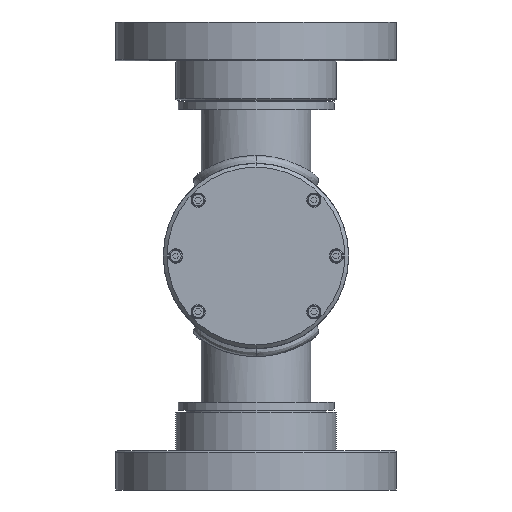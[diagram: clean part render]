
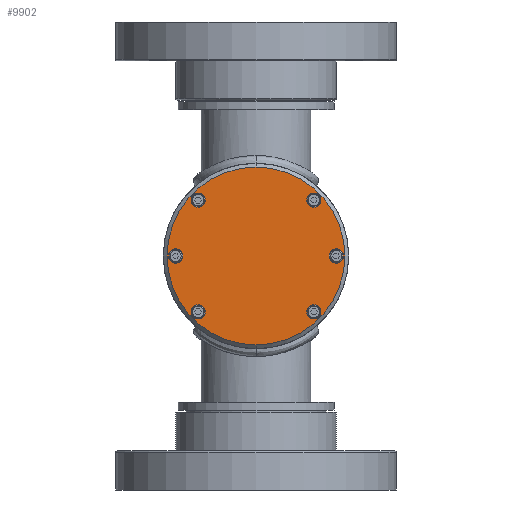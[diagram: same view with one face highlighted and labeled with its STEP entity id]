
A CAD part, front view. The second image highlights one B-rep face of the part: STEP entity #9902.
In plain terms, the highlighted planar face has unit normal (0, -1, 0).
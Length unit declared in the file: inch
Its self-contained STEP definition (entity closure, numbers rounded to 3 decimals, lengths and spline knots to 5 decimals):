
#58 = CARTESIAN_POINT ( 'NONE',  ( -2.575, 0., 0. ) ) ;
#412 = CIRCLE ( 'NONE', #3050, 0.23 ) ;
#469 = DIRECTION ( 'NONE',  ( 0., 1., 0. ) ) ;
#527 = ORIENTED_EDGE ( 'NONE', *, *, #3734, .T. ) ;
#536 = ORIENTED_EDGE ( 'NONE', *, *, #9244, .T. ) ;
#744 = VERTEX_POINT ( 'NONE', #3406 ) ;
#762 = VERTEX_POINT ( 'NONE', #11953 ) ;
#831 = VERTEX_POINT ( 'NONE', #7792 ) ;
#897 = CARTESIAN_POINT ( 'NONE',  ( 1.8523, 0., 2.01875 ) ) ;
#963 = EDGE_CURVE ( 'NONE', #11802, #4153, #4863, .T. ) ;
#997 = CARTESIAN_POINT ( 'NONE',  ( 1.8523, 0., 1.78875 ) ) ;
#1009 = DIRECTION ( 'NONE',  ( 0., 0., 1. ) ) ;
#1090 = DIRECTION ( 'NONE',  ( 0., -1., 0. ) ) ;
#1150 = DIRECTION ( 'NONE',  ( 0., 0., 1. ) ) ;
#1230 = ORIENTED_EDGE ( 'NONE', *, *, #10927, .T. ) ;
#1250 = CARTESIAN_POINT ( 'NONE',  ( 1.8523, 0., -1.78875 ) ) ;
#1457 = CARTESIAN_POINT ( 'NONE',  ( -2.575, 0., 0.23 ) ) ;
#1521 = AXIS2_PLACEMENT_3D ( 'NONE', #8430, #2002, #9496 ) ;
#1580 = FACE_BOUND ( 'NONE', #9093, .T. ) ;
#1581 = CARTESIAN_POINT ( 'NONE',  ( -2.575, 0., 0. ) ) ;
#1933 = FACE_BOUND ( 'NONE', #12645, .T. ) ;
#1934 = DIRECTION ( 'NONE',  ( 0., -1., 0. ) ) ;
#1946 = EDGE_CURVE ( 'NONE', #762, #4869, #9706, .T. ) ;
#1977 = DIRECTION ( 'NONE',  ( 0., 0., 1. ) ) ;
#2002 = DIRECTION ( 'NONE',  ( 0., -1., 0. ) ) ;
#2074 = DIRECTION ( 'NONE',  ( 0., 0., 1. ) ) ;
#2262 = CARTESIAN_POINT ( 'NONE',  ( 1.8523, 0., -1.55875 ) ) ;
#2266 = FACE_BOUND ( 'NONE', #9384, .T. ) ;
#2326 = VERTEX_POINT ( 'NONE', #9639 ) ;
#2336 = DIRECTION ( 'NONE',  ( 0., 0., 1. ) ) ;
#2673 = CIRCLE ( 'NONE', #6336, 0.23 ) ;
#2676 = DIRECTION ( 'NONE',  ( 0., 0., 1. ) ) ;
#2722 = EDGE_CURVE ( 'NONE', #8382, #744, #2673, .T. ) ;
#3050 = AXIS2_PLACEMENT_3D ( 'NONE', #997, #8504, #2074 ) ;
#3177 = DIRECTION ( 'NONE',  ( 0., 1., 0. ) ) ;
#3182 = DIRECTION ( 'NONE',  ( 0., 1., 0. ) ) ;
#3212 = EDGE_CURVE ( 'NONE', #4050, #13530, #4670, .T. ) ;
#3329 = VERTEX_POINT ( 'NONE', #12002 ) ;
#3406 = CARTESIAN_POINT ( 'NONE',  ( 2.575, 0., -0.23 ) ) ;
#3447 = CIRCLE ( 'NONE', #5443, 0.23 ) ;
#3462 = AXIS2_PLACEMENT_3D ( 'NONE', #13730, #8401, #1977 ) ;
#3514 = EDGE_LOOP ( 'NONE', ( #536, #12570 ) ) ;
#3711 = CARTESIAN_POINT ( 'NONE',  ( 1.8523, 0., -1.78875 ) ) ;
#3734 = EDGE_CURVE ( 'NONE', #4153, #11802, #6976, .T. ) ;
#4037 = ORIENTED_EDGE ( 'NONE', *, *, #5023, .F. ) ;
#4050 = VERTEX_POINT ( 'NONE', #1457 ) ;
#4089 = PLANE ( 'NONE',  #3462 ) ;
#4153 = VERTEX_POINT ( 'NONE', #10269 ) ;
#4415 = CIRCLE ( 'NONE', #8691, 0.23 ) ;
#4440 = ORIENTED_EDGE ( 'NONE', *, *, #11995, .F. ) ;
#4444 = FACE_OUTER_BOUND ( 'NONE', #11945, .T. ) ;
#4594 = CIRCLE ( 'NONE', #13141, 2.85 ) ;
#4670 = CIRCLE ( 'NONE', #11086, 0.23 ) ;
#4777 = DIRECTION ( 'NONE',  ( 0., 0., 1. ) ) ;
#4842 = DIRECTION ( 'NONE',  ( 0., -1., 0. ) ) ;
#4863 = CIRCLE ( 'NONE', #11531, 0.23 ) ;
#4869 = VERTEX_POINT ( 'NONE', #10447 ) ;
#4898 = AXIS2_PLACEMENT_3D ( 'NONE', #13849, #7425, #1009 ) ;
#5023 = EDGE_CURVE ( 'NONE', #10976, #12936, #412, .T. ) ;
#5096 = EDGE_LOOP ( 'NONE', ( #7619, #11709 ) ) ;
#5412 = AXIS2_PLACEMENT_3D ( 'NONE', #9570, #3182, #10652 ) ;
#5443 = AXIS2_PLACEMENT_3D ( 'NONE', #1250, #8752, #2336 ) ;
#5721 = ORIENTED_EDGE ( 'NONE', *, *, #2722, .F. ) ;
#5911 = EDGE_LOOP ( 'NONE', ( #13244, #4037 ) ) ;
#5936 = DIRECTION ( 'NONE',  ( 0., 1., 0. ) ) ;
#6262 = VERTEX_POINT ( 'NONE', #2262 ) ;
#6336 = AXIS2_PLACEMENT_3D ( 'NONE', #11256, #4842, #12332 ) ;
#6420 = CIRCLE ( 'NONE', #8234, 0.23 ) ;
#6888 = CARTESIAN_POINT ( 'NONE',  ( -1.8523, 0., -1.78875 ) ) ;
#6976 = CIRCLE ( 'NONE', #13704, 0.23 ) ;
#7134 = ORIENTED_EDGE ( 'NONE', *, *, #12783, .F. ) ;
#7293 = FACE_BOUND ( 'NONE', #5096, .T. ) ;
#7425 = DIRECTION ( 'NONE',  ( 0., -1., 0. ) ) ;
#7506 = CARTESIAN_POINT ( 'NONE',  ( 1.8523, 0., 1.78875 ) ) ;
#7556 = DIRECTION ( 'NONE',  ( 0., 1., 0. ) ) ;
#7619 = ORIENTED_EDGE ( 'NONE', *, *, #12792, .T. ) ;
#7625 = FACE_BOUND ( 'NONE', #5911, .T. ) ;
#7792 = CARTESIAN_POINT ( 'NONE',  ( 0., 0., -2.85 ) ) ;
#7862 = AXIS2_PLACEMENT_3D ( 'NONE', #12344, #5936, #13424 ) ;
#7966 = DIRECTION ( 'NONE',  ( 0., 0., 1. ) ) ;
#8160 = ORIENTED_EDGE ( 'NONE', *, *, #963, .T. ) ;
#8234 = AXIS2_PLACEMENT_3D ( 'NONE', #7506, #1090, #8581 ) ;
#8362 = CARTESIAN_POINT ( 'NONE',  ( 0., 0., 0. ) ) ;
#8382 = VERTEX_POINT ( 'NONE', #8943 ) ;
#8401 = DIRECTION ( 'NONE',  ( 0., 1., 0. ) ) ;
#8430 = CARTESIAN_POINT ( 'NONE',  ( 0., 0., 0. ) ) ;
#8504 = DIRECTION ( 'NONE',  ( 0., -1., 0. ) ) ;
#8581 = DIRECTION ( 'NONE',  ( 0., 0., 1. ) ) ;
#8678 = EDGE_CURVE ( 'NONE', #831, #3329, #8832, .T. ) ;
#8691 = AXIS2_PLACEMENT_3D ( 'NONE', #3711, #11187, #4777 ) ;
#8752 = DIRECTION ( 'NONE',  ( 0., -1., 0. ) ) ;
#8832 = CIRCLE ( 'NONE', #1521, 2.85 ) ;
#8943 = CARTESIAN_POINT ( 'NONE',  ( 2.575, 0., 0.23 ) ) ;
#9082 = DIRECTION ( 'NONE',  ( 0., 1., 0. ) ) ;
#9093 = EDGE_LOOP ( 'NONE', ( #8160, #527 ) ) ;
#9244 = EDGE_CURVE ( 'NONE', #4869, #762, #12989, .T. ) ;
#9384 = EDGE_LOOP ( 'NONE', ( #11616, #7134 ) ) ;
#9421 = DIRECTION ( 'NONE',  ( 0., 0., 1. ) ) ;
#9496 = DIRECTION ( 'NONE',  ( 0., 0., 1. ) ) ;
#9566 = CARTESIAN_POINT ( 'NONE',  ( -1.8523, 0., -1.78875 ) ) ;
#9570 = CARTESIAN_POINT ( 'NONE',  ( -1.8523, 0., 1.78875 ) ) ;
#9639 = CARTESIAN_POINT ( 'NONE',  ( 1.8523, 0., -2.01875 ) ) ;
#9706 = CIRCLE ( 'NONE', #7862, 0.23 ) ;
#9761 = CIRCLE ( 'NONE', #10838, 0.23 ) ;
#9902 = ADVANCED_FACE ( 'NONE', ( #7625, #1933, #2266, #4444, #1580, #7293, #12649 ), #4089, .F. ) ;
#10269 = CARTESIAN_POINT ( 'NONE',  ( -1.8523, 0., -1.55875 ) ) ;
#10335 = CARTESIAN_POINT ( 'NONE',  ( 1.8523, 0., 1.55875 ) ) ;
#10447 = CARTESIAN_POINT ( 'NONE',  ( -1.8523, 0., 1.55875 ) ) ;
#10645 = DIRECTION ( 'NONE',  ( 0., 0., 1. ) ) ;
#10652 = DIRECTION ( 'NONE',  ( 0., 0., 1. ) ) ;
#10838 = AXIS2_PLACEMENT_3D ( 'NONE', #1581, #9082, #2676 ) ;
#10927 = EDGE_CURVE ( 'NONE', #3329, #831, #4594, .T. ) ;
#10976 = VERTEX_POINT ( 'NONE', #897 ) ;
#11086 = AXIS2_PLACEMENT_3D ( 'NONE', #58, #7556, #1150 ) ;
#11187 = DIRECTION ( 'NONE',  ( 0., -1., 0. ) ) ;
#11256 = CARTESIAN_POINT ( 'NONE',  ( 2.575, 0., 0. ) ) ;
#11464 = EDGE_CURVE ( 'NONE', #2326, #6262, #3447, .T. ) ;
#11531 = AXIS2_PLACEMENT_3D ( 'NONE', #6888, #469, #7966 ) ;
#11616 = ORIENTED_EDGE ( 'NONE', *, *, #11464, .F. ) ;
#11656 = CARTESIAN_POINT ( 'NONE',  ( -2.575, 0., -0.23 ) ) ;
#11709 = ORIENTED_EDGE ( 'NONE', *, *, #3212, .T. ) ;
#11802 = VERTEX_POINT ( 'NONE', #12476 ) ;
#11945 = EDGE_LOOP ( 'NONE', ( #1230, #12969 ) ) ;
#11953 = CARTESIAN_POINT ( 'NONE',  ( -1.8523, 0., 2.01875 ) ) ;
#11995 = EDGE_CURVE ( 'NONE', #744, #8382, #12632, .T. ) ;
#12002 = CARTESIAN_POINT ( 'NONE',  ( 0., 0., 2.85 ) ) ;
#12332 = DIRECTION ( 'NONE',  ( 0., 0., 1. ) ) ;
#12344 = CARTESIAN_POINT ( 'NONE',  ( -1.8523, 0., 1.78875 ) ) ;
#12476 = CARTESIAN_POINT ( 'NONE',  ( -1.8523, 0., -2.01875 ) ) ;
#12529 = EDGE_CURVE ( 'NONE', #12936, #10976, #6420, .T. ) ;
#12570 = ORIENTED_EDGE ( 'NONE', *, *, #1946, .T. ) ;
#12632 = CIRCLE ( 'NONE', #4898, 0.23 ) ;
#12645 = EDGE_LOOP ( 'NONE', ( #4440, #5721 ) ) ;
#12649 = FACE_BOUND ( 'NONE', #3514, .T. ) ;
#12783 = EDGE_CURVE ( 'NONE', #6262, #2326, #4415, .T. ) ;
#12792 = EDGE_CURVE ( 'NONE', #13530, #4050, #9761, .T. ) ;
#12936 = VERTEX_POINT ( 'NONE', #10335 ) ;
#12969 = ORIENTED_EDGE ( 'NONE', *, *, #8678, .T. ) ;
#12989 = CIRCLE ( 'NONE', #5412, 0.23 ) ;
#13141 = AXIS2_PLACEMENT_3D ( 'NONE', #8362, #1934, #9421 ) ;
#13244 = ORIENTED_EDGE ( 'NONE', *, *, #12529, .F. ) ;
#13424 = DIRECTION ( 'NONE',  ( 0., 0., 1. ) ) ;
#13530 = VERTEX_POINT ( 'NONE', #11656 ) ;
#13704 = AXIS2_PLACEMENT_3D ( 'NONE', #9566, #3177, #10645 ) ;
#13730 = CARTESIAN_POINT ( 'NONE',  ( 0., 0., 0. ) ) ;
#13849 = CARTESIAN_POINT ( 'NONE',  ( 2.575, 0., 0. ) ) ;
